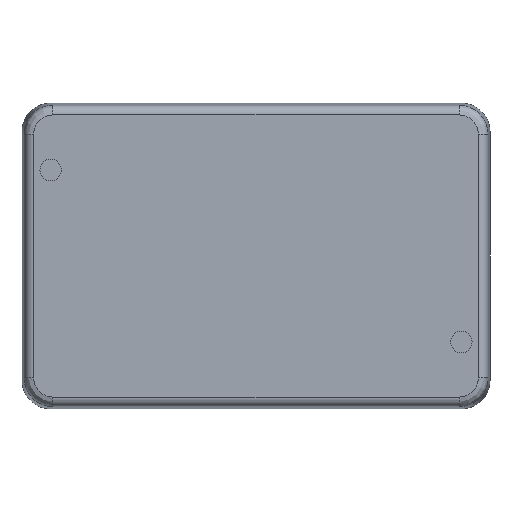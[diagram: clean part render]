
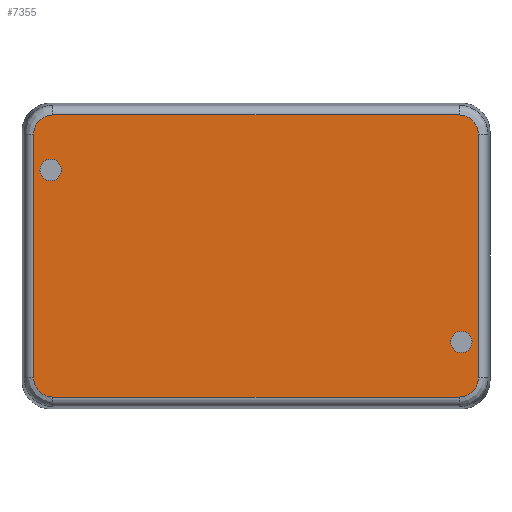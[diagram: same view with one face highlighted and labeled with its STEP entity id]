
A CAD part, front view. The second image highlights one B-rep face of the part: STEP entity #7355.
In plain terms, the highlighted planar face has unit normal (0, -1, 0).
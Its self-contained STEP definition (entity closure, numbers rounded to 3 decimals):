
#2048=CARTESIAN_POINT('',(-43.,-26.,18.));
#2049=DIRECTION('',(0.,1.,0.));
#2050=DIRECTION('',(0.,0.,-1.));
#2051=AXIS2_PLACEMENT_3D('',#2048,#2049,#2050);
#2056=CARTESIAN_POINT('',(-43.,-26.,18.));
#2057=DIRECTION('',(0.,1.,0.));
#2058=DIRECTION('',(0.,0.,1.));
#2059=AXIS2_PLACEMENT_3D('',#2056,#2057,#2058);
#2064=CARTESIAN_POINT('',(43.,-26.,-18.));
#2065=DIRECTION('',(0.,-1.,0.));
#2066=DIRECTION('',(0.,0.,-1.));
#2067=AXIS2_PLACEMENT_3D('',#2064,#2065,#2066);
#2072=CARTESIAN_POINT('',(43.,-26.,-18.));
#2073=DIRECTION('',(0.,-1.,0.));
#2074=DIRECTION('',(0.,0.,1.));
#2075=AXIS2_PLACEMENT_3D('',#2072,#2073,#2074);
#2080=DIRECTION('',(0.,0.,-1.));
#2081=VECTOR('',#2080,51.078);
#2082=CARTESIAN_POINT('',(-46.538,-26.,25.539));
#2083=LINE('',#2082,#2081);
#2087=CARTESIAN_POINT('',(-42.539,-26.,29.538));
#2088=CARTESIAN_POINT('',(-42.811,-26.,29.538));
#2089=CARTESIAN_POINT('',(-43.335,-26.,29.483));
#2090=CARTESIAN_POINT('',(-44.057,-26.,29.264));
#2091=CARTESIAN_POINT('',(-44.737,-26.,28.909));
#2092=CARTESIAN_POINT('',(-45.336,-26.,28.431));
#2093=CARTESIAN_POINT('',(-45.827,-26.,27.858));
#2094=CARTESIAN_POINT('',(-46.221,-26.,27.17));
#2095=CARTESIAN_POINT('',(-46.478,-26.,26.379));
#2096=CARTESIAN_POINT('',(-46.538,-26.,25.826));
#2097=CARTESIAN_POINT('',(-46.538,-26.,25.539));
#2102=DIRECTION('',(-1.,0.,0.));
#2103=VECTOR('',#2102,85.078);
#2104=CARTESIAN_POINT('',(42.539,-26.,29.538));
#2105=LINE('',#2104,#2103);
#2109=CARTESIAN_POINT('',(46.538,-26.,25.539));
#2110=CARTESIAN_POINT('',(46.538,-26.,25.811));
#2111=CARTESIAN_POINT('',(46.483,-26.,26.335));
#2112=CARTESIAN_POINT('',(46.264,-26.,27.057));
#2113=CARTESIAN_POINT('',(45.909,-26.,27.737));
#2114=CARTESIAN_POINT('',(45.431,-26.,28.336));
#2115=CARTESIAN_POINT('',(44.858,-26.,28.827));
#2116=CARTESIAN_POINT('',(44.17,-26.,29.221));
#2117=CARTESIAN_POINT('',(43.379,-26.,29.478));
#2118=CARTESIAN_POINT('',(42.826,-26.,29.538));
#2119=CARTESIAN_POINT('',(42.539,-26.,29.538));
#2124=DIRECTION('',(0.,0.,1.));
#2125=VECTOR('',#2124,51.078);
#2126=CARTESIAN_POINT('',(46.538,-26.,-25.539));
#2127=LINE('',#2126,#2125);
#2131=CARTESIAN_POINT('',(42.539,-26.,-29.538));
#2132=CARTESIAN_POINT('',(42.811,-26.,-29.538));
#2133=CARTESIAN_POINT('',(43.335,-26.,-29.483));
#2134=CARTESIAN_POINT('',(44.057,-26.,-29.264));
#2135=CARTESIAN_POINT('',(44.737,-26.,-28.909));
#2136=CARTESIAN_POINT('',(45.336,-26.,-28.431));
#2137=CARTESIAN_POINT('',(45.827,-26.,-27.858));
#2138=CARTESIAN_POINT('',(46.221,-26.,-27.17));
#2139=CARTESIAN_POINT('',(46.478,-26.,-26.379));
#2140=CARTESIAN_POINT('',(46.538,-26.,-25.826));
#2141=CARTESIAN_POINT('',(46.538,-26.,-25.539));
#2146=DIRECTION('',(1.,0.,0.));
#2147=VECTOR('',#2146,85.078);
#2148=CARTESIAN_POINT('',(-42.539,-26.,-29.538));
#2149=LINE('',#2148,#2147);
#2153=CARTESIAN_POINT('',(-46.538,-26.,-25.539));
#2154=CARTESIAN_POINT('',(-46.538,-26.,-25.811));
#2155=CARTESIAN_POINT('',(-46.483,-26.,-26.335));
#2156=CARTESIAN_POINT('',(-46.264,-26.,-27.057));
#2157=CARTESIAN_POINT('',(-45.909,-26.,-27.737));
#2158=CARTESIAN_POINT('',(-45.431,-26.,-28.336));
#2159=CARTESIAN_POINT('',(-44.858,-26.,-28.827));
#2160=CARTESIAN_POINT('',(-44.17,-26.,-29.221));
#2161=CARTESIAN_POINT('',(-43.379,-26.,-29.478));
#2162=CARTESIAN_POINT('',(-42.826,-26.,-29.538));
#2163=CARTESIAN_POINT('',(-42.539,-26.,-29.538));
#6720=CARTESIAN_POINT('',(-43.,-26.,15.75));
#6721=CARTESIAN_POINT('',(-43.,-26.,20.25));
#6722=VERTEX_POINT('',#6720);
#6723=VERTEX_POINT('',#6721);
#6728=CARTESIAN_POINT('',(43.,-26.,-20.25));
#6729=CARTESIAN_POINT('',(43.,-26.,-15.75));
#6730=VERTEX_POINT('',#6728);
#6731=VERTEX_POINT('',#6729);
#6746=CARTESIAN_POINT('',(-46.538,-26.,25.539));
#6747=CARTESIAN_POINT('',(-46.538,-26.,-25.539));
#6748=VERTEX_POINT('',#6746);
#6749=VERTEX_POINT('',#6747);
#6754=VERTEX_POINT('',#2087);
#6756=CARTESIAN_POINT('',(42.539,-26.,29.538));
#6757=VERTEX_POINT('',#6756);
#6760=VERTEX_POINT('',#2109);
#6762=CARTESIAN_POINT('',(46.538,-26.,-25.539));
#6763=VERTEX_POINT('',#6762);
#6766=VERTEX_POINT('',#2163);
#6768=CARTESIAN_POINT('',(42.539,-26.,-29.538));
#6769=VERTEX_POINT('',#6768);
#7320=CARTESIAN_POINT('',(0.,-26.,0.));
#7321=DIRECTION('',(0.,-1.,0.));
#7322=DIRECTION('',(1.,0.,0.));
#7323=AXIS2_PLACEMENT_3D('',#7320,#7321,#7322);
#7324=PLANE('',#7323);
#7326=ORIENTED_EDGE('',*,*,#7325,.F.);
#7328=ORIENTED_EDGE('',*,*,#7327,.F.);
#7330=ORIENTED_EDGE('',*,*,#7329,.F.);
#7332=ORIENTED_EDGE('',*,*,#7331,.F.);
#7334=ORIENTED_EDGE('',*,*,#7333,.F.);
#7336=ORIENTED_EDGE('',*,*,#7335,.F.);
#7338=ORIENTED_EDGE('',*,*,#7337,.F.);
#7340=ORIENTED_EDGE('',*,*,#7339,.F.);
#7341=EDGE_LOOP('',(#7326,#7328,#7330,#7332,#7334,#7336,#7338,#7340));
#7342=FACE_OUTER_BOUND('',#7341,.F.);
#7344=ORIENTED_EDGE('',*,*,#7343,.T.);
#7346=ORIENTED_EDGE('',*,*,#7345,.T.);
#7347=EDGE_LOOP('',(#7344,#7346));
#7348=FACE_BOUND('',#7347,.F.);
#7350=ORIENTED_EDGE('',*,*,#7349,.F.);
#7352=ORIENTED_EDGE('',*,*,#7351,.F.);
#7353=EDGE_LOOP('',(#7350,#7352));
#7354=FACE_BOUND('',#7353,.F.);
#2052=CIRCLE('',#2051,2.25);
#2060=CIRCLE('',#2059,2.25);
#2068=CIRCLE('',#2067,2.25);
#2076=CIRCLE('',#2075,2.25);
#2098=B_SPLINE_CURVE_WITH_KNOTS('',3,(#2087,#2088,#2089,#2090,#2091,#2092,#2093,
#2094,#2095,#2096,#2097),.UNSPECIFIED.,.F.,.F.,(4,1,1,1,1,1,1,1,4),(0.,
0.125,0.25,0.375,0.5,0.625,0.75,0.875,1.),.UNSPECIFIED.);
#2120=B_SPLINE_CURVE_WITH_KNOTS('',3,(#2109,#2110,#2111,#2112,#2113,#2114,#2115,
#2116,#2117,#2118,#2119),.UNSPECIFIED.,.F.,.F.,(4,1,1,1,1,1,1,1,4),(0.,
0.125,0.25,0.375,0.5,0.625,0.75,0.875,1.),.UNSPECIFIED.);
#2142=B_SPLINE_CURVE_WITH_KNOTS('',3,(#2131,#2132,#2133,#2134,#2135,#2136,#2137,
#2138,#2139,#2140,#2141),.UNSPECIFIED.,.F.,.F.,(4,1,1,1,1,1,1,1,4),(0.,
0.125,0.25,0.375,0.5,0.625,0.75,0.875,1.),.UNSPECIFIED.);
#2164=B_SPLINE_CURVE_WITH_KNOTS('',3,(#2153,#2154,#2155,#2156,#2157,#2158,#2159,
#2160,#2161,#2162,#2163),.UNSPECIFIED.,.F.,.F.,(4,1,1,1,1,1,1,1,4),(0.,
0.125,0.25,0.375,0.5,0.625,0.75,0.875,1.),.UNSPECIFIED.);
#7325=EDGE_CURVE('',#6748,#6749,#2083,.T.);
#7327=EDGE_CURVE('',#6754,#6748,#2098,.T.);
#7329=EDGE_CURVE('',#6757,#6754,#2105,.T.);
#7331=EDGE_CURVE('',#6760,#6757,#2120,.T.);
#7333=EDGE_CURVE('',#6763,#6760,#2127,.T.);
#7335=EDGE_CURVE('',#6769,#6763,#2142,.T.);
#7337=EDGE_CURVE('',#6766,#6769,#2149,.T.);
#7339=EDGE_CURVE('',#6749,#6766,#2164,.T.);
#7343=EDGE_CURVE('',#6730,#6731,#2068,.T.);
#7345=EDGE_CURVE('',#6731,#6730,#2076,.T.);
#7349=EDGE_CURVE('',#6722,#6723,#2052,.T.);
#7351=EDGE_CURVE('',#6723,#6722,#2060,.T.);
#7355=ADVANCED_FACE('',(#7342,#7348,#7354),#7324,.T.);
